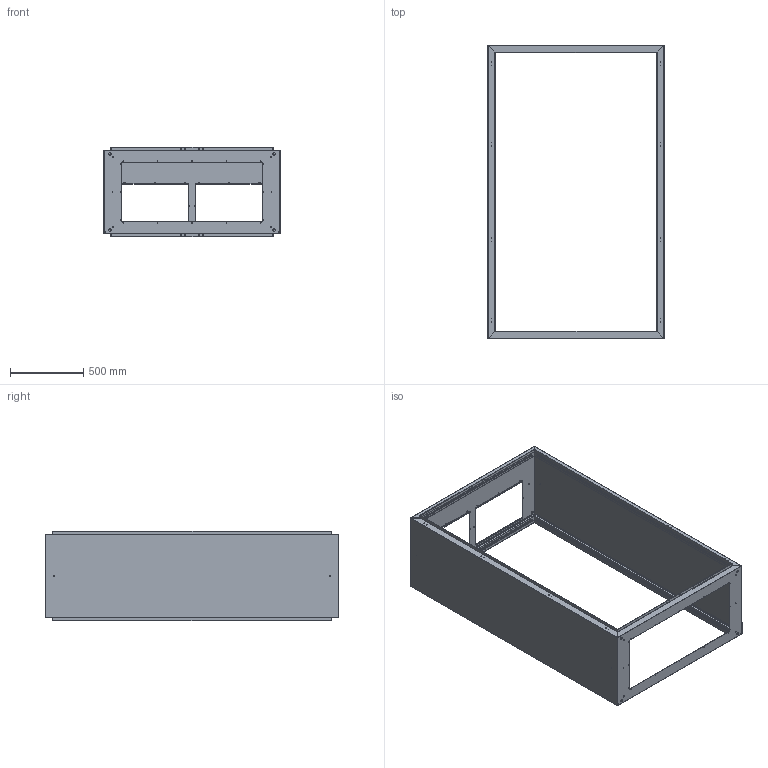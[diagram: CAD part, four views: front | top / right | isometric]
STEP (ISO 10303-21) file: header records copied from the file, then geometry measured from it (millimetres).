
FILE_DESCRIPTION (( 'STEP AP203' ), '1' );
FILE_NAME ('1200x2000x600.STEP', '2021-11-11T17:03:31', ( '' ), ( '' ), 'SwSTEP 2.0', 'SolidWorks 2019', '' );
FILE_SCHEMA (( 'CONFIG_CONTROL_DESIGN' ));
Length unit declared in the file: millimetre
Products named in the file (4): Üst Kapak 1,5mm_monoblok_tekkapakrevize_PP 16.1017 1200Gx600D šST; 1200x2000x600; Alt Kapak 1,5mm_monoblok_tekkapakrevize_PP 16.1026 1200Gx600D ALT; Yan Kapak 1,5mm_monoblok_tekkapakrevize_PP 16.1008 - 2000Yx600D YAN
Assembly tree (4 placements, depth 2):
  1200x2000x600
    Alt Kapak 1,5mm_monoblok_tekkapakrevize_PP 16.1026 1200Gx600D ALT
    Üst Kapak 1,5mm_monoblok_tekkapakrevize_PP 16.1017 1200Gx600D šST
    Yan Kapak 1,5mm_monoblok_tekkapakrevize_PP 16.1008 - 2000Yx600D YAN  x2
Bounding box: 1200 x 2000 x 612 mm (x, y, z)
Volume: 7043892.1 mm3; surface area: 9504873 mm2
Topology: 4 solids, 4 shells, 6312 faces, 18632 edges, 12336 vertices
Faces by surface type: plane 4108, cylinder 2188, bspline 16
Entity records: 152802 total; most frequent: CARTESIAN_POINT 26487, ORIENTED_EDGE 25976, DIRECTION 24802, EDGE_CURVE 12988, LINE 9932, VECTOR 9932, VERTEX_POINT 8592, AXIS2_PLACEMENT_3D 7435
